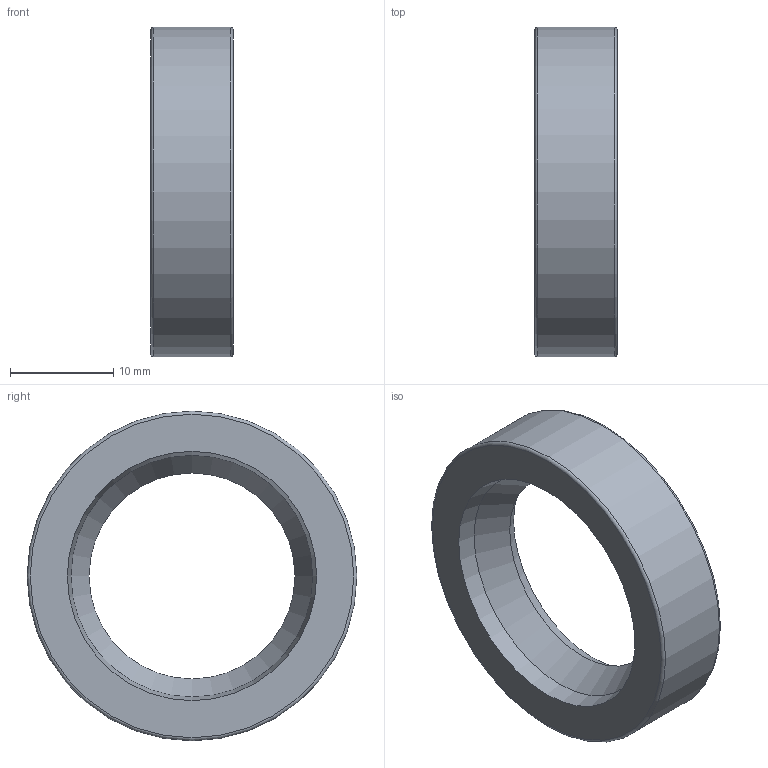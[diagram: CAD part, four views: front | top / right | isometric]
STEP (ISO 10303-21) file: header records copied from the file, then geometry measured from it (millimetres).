
FILE_DESCRIPTION(/* description */ ('오일-실'),/* implementation_level */ '2;1');
FILE_NAME(/* name */ '',/* time_stamp */ '2024-11-28T15:17:50+09:00',/* author */ ('jhkim'),/* organization */ (''),/* preprocessor_version */ 'ST-DEVELOPER v20',/* originating_system */ 'Autodesk Inventor 2025',/* authorisation */ '');
FILE_SCHEMA (('AUTOMOTIVE_DESIGN { 1 0 10303 214 3 1 1 }'));
Length unit declared in the file: millimetre
Products named in the file (1): 오일 실 20 32 8
Bounding box: 8 x 32 x 32 mm (x, y, z)
Volume: 1924.9 mm3; surface area: 2993.1 mm2
Topology: 1 solids, 1 shells, 15 faces, 31 edges, 20 vertices
Faces by surface type: torus 4, plane 4, cone 4, cylinder 3
Full cylindrical faces by diameter (mm): 24.2 x1, 29.5 x1, 32 x1
Entity records: 460 total; most frequent: DIRECTION 87, CARTESIAN_POINT 67, ORIENTED_EDGE 62, AXIS2_PLACEMENT_3D 40, EDGE_CURVE 31, CIRCLE 24, VERTEX_POINT 20, EDGE_LOOP 19
